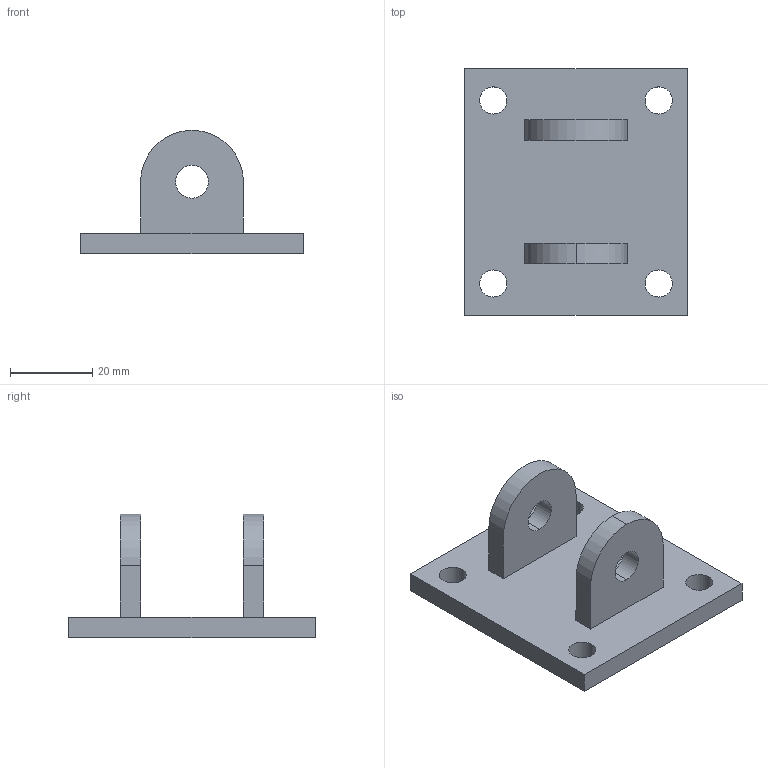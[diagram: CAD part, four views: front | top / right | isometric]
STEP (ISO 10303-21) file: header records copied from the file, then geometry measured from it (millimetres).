
FILE_DESCRIPTION (( 'STEP AP214' ), '1' );
FILE_NAME ('Chape_conception_non_optimisée.STEP', '2024-02-02T08:26:07', ( '' ), ( '' ), 'SwSTEP 2.0', 'SolidWorks 2022', '' );
FILE_SCHEMA (( 'AUTOMOTIVE_DESIGN' ));
Length unit declared in the file: millimetre
Products named in the file (1): Chape_conception_non_optimisée
Bounding box: 54.19 x 60 x 30 mm (x, y, z)
Volume: 20649.3 mm3; surface area: 10460.3 mm2
Topology: 1 solids, 1 shells, 29 faces, 75 edges, 50 vertices
Faces by surface type: cylinder 15, plane 14
Entity records: 1045 total; most frequent: DIRECTION 165, CARTESIAN_POINT 155, ORIENTED_EDGE 150, EDGE_CURVE 75, AXIS2_PLACEMENT_3D 60, VERTEX_POINT 50, LINE 45, VECTOR 45
